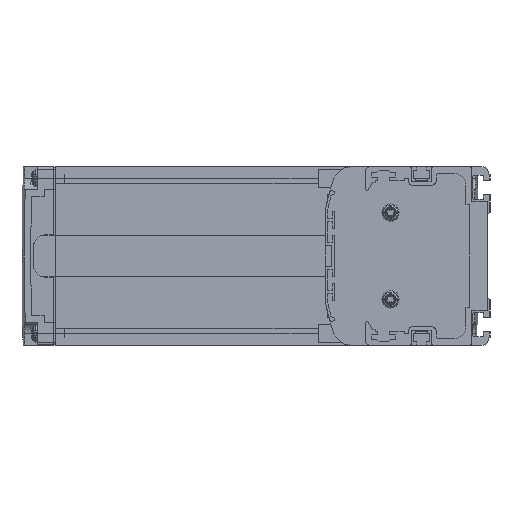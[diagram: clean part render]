
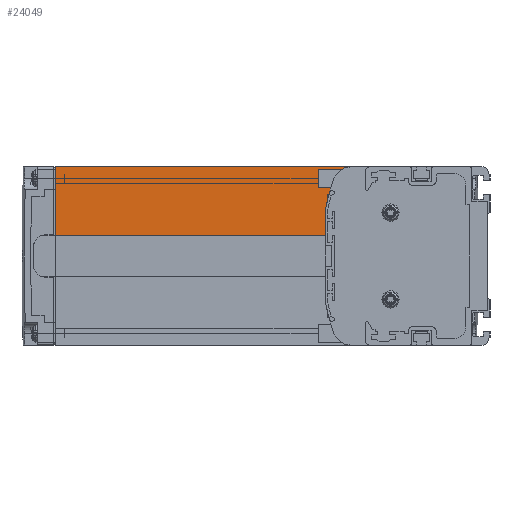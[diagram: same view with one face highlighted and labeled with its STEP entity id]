
A CAD part, left-side view. The second image highlights one B-rep face of the part: STEP entity #24049.
In plain terms, the highlighted planar face has unit normal (-1, 0, 0).
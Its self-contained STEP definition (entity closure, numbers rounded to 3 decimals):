
#1246=DIRECTION('',(0.,-1.,0.));
#1247=VECTOR('',#1246,0.571);
#1248=CARTESIAN_POINT('',(3.,71.,27.));
#1249=LINE('',#1248,#1247);
#1258=DIRECTION('',(0.,0.,1.));
#1259=VECTOR('',#1258,2.224);
#1260=CARTESIAN_POINT('',(3.,71.,24.776));
#1261=LINE('',#1260,#1259);
#1278=DIRECTION('',(0.,0.,-1.));
#1279=VECTOR('',#1278,29.9);
#1280=CARTESIAN_POINT('',(3.,190.,39.));
#1281=LINE('',#1280,#1279);
#5512=DIRECTION('',(0.,-1.,0.));
#5513=VECTOR('',#5512,129.245);
#5514=CARTESIAN_POINT('',(3.,190.,39.));
#5515=LINE('',#5514,#5513);
#6786=DIRECTION('',(0.,0.,-1.));
#6787=VECTOR('',#6786,10.723);
#6788=CARTESIAN_POINT('',(3.,72.,19.823));
#6789=LINE('',#6788,#6787);
#6802=CARTESIAN_POINT('',(3.,70.,19.823));
#6803=DIRECTION('',(1.,0.,0.));
#6804=DIRECTION('',(0.,1.,0.));
#6805=AXIS2_PLACEMENT_3D('',#6802,#6803,#6804);
#6811=CARTESIAN_POINT('',(3.,-6.765,6.));
#6812=DIRECTION('',(1.,0.,0.));
#6813=DIRECTION('',(0.,0.984,0.177));
#6814=AXIS2_PLACEMENT_3D('',#6811,#6812,#6813);
#6816=CARTESIAN_POINT('',(3.,-6.765,6.));
#6817=DIRECTION('',(1.,0.,0.));
#6818=DIRECTION('',(0.,0.965,0.263));
#6819=AXIS2_PLACEMENT_3D('',#6816,#6817,#6818);
#6825=CARTESIAN_POINT('',(3.,60.755,31.));
#6826=DIRECTION('',(-1.,0.,0.));
#6827=DIRECTION('',(0.,0.,1.));
#6828=AXIS2_PLACEMENT_3D('',#6825,#6826,#6827);
#11690=DIRECTION('',(0.,-1.,0.));
#11691=VECTOR('',#11690,118.);
#11692=CARTESIAN_POINT('',(3.,190.,9.1));
#11693=LINE('',#11692,#11691);
#17897=CARTESIAN_POINT('',(3.,190.,39.));
#17898=VERTEX_POINT('',#17897);
#17899=CARTESIAN_POINT('',(3.,190.,9.1));
#17900=VERTEX_POINT('',#17899);
#17929=CARTESIAN_POINT('',(3.,71.,27.));
#17931=VERTEX_POINT('',#17929);
#21991=CARTESIAN_POINT('',(3.,70.429,27.));
#21993=VERTEX_POINT('',#21991);
#22000=CARTESIAN_POINT('',(3.,71.,24.776));
#22002=VERTEX_POINT('',#22000);
#22010=CARTESIAN_POINT('',(3.,72.,9.1));
#22011=VERTEX_POINT('',#22010);
#22020=CARTESIAN_POINT('',(3.,72.,19.823));
#22021=CARTESIAN_POINT('',(3.,71.968,20.177));
#22022=VERTEX_POINT('',#22020);
#22023=VERTEX_POINT('',#22021);
#22024=CARTESIAN_POINT('',(3.,68.257,33.778));
#22025=VERTEX_POINT('',#22024);
#22026=CARTESIAN_POINT('',(3.,60.755,39.));
#22027=VERTEX_POINT('',#22026);
#24024=CARTESIAN_POINT('',(3.,105.,24.05));
#24025=DIRECTION('',(1.,0.,0.));
#24026=DIRECTION('',(0.,0.,1.));
#24027=AXIS2_PLACEMENT_3D('',#24024,#24025,#24026);
#24028=PLANE('',#24027);
#24030=ORIENTED_EDGE('',*,*,#24029,.F.);
#24032=ORIENTED_EDGE('',*,*,#24031,.T.);
#24034=ORIENTED_EDGE('',*,*,#24033,.F.);
#24036=ORIENTED_EDGE('',*,*,#24035,.F.);
#24038=ORIENTED_EDGE('',*,*,#24037,.T.);
#24040=ORIENTED_EDGE('',*,*,#24039,.T.);
#24042=ORIENTED_EDGE('',*,*,#24041,.F.);
#24043=ORIENTED_EDGE('',*,*,#23973,.F.);
#24044=ORIENTED_EDGE('',*,*,#23991,.F.);
#24046=ORIENTED_EDGE('',*,*,#24045,.F.);
#24047=EDGE_LOOP('',(#24030,#24032,#24034,#24036,#24038,#24040,#24042,#24043,
#24044,#24046));
#24048=FACE_OUTER_BOUND('',#24047,.F.);
#24049=ADVANCED_FACE('',(#24048),#24028,.F.);
#6806=CIRCLE('',#6805,2.);
#6815=CIRCLE('',#6814,80.);
#6820=CIRCLE('',#6819,80.);
#6829=CIRCLE('',#6828,8.);
#23973=EDGE_CURVE('',#17931,#21993,#1249,.T.);
#23991=EDGE_CURVE('',#22002,#17931,#1261,.T.);
#24029=EDGE_CURVE('',#22022,#22023,#6806,.T.);
#24031=EDGE_CURVE('',#22022,#22011,#6789,.T.);
#24033=EDGE_CURVE('',#17900,#22011,#11693,.T.);
#24035=EDGE_CURVE('',#17898,#17900,#1281,.T.);
#24037=EDGE_CURVE('',#17898,#22027,#5515,.T.);
#24039=EDGE_CURVE('',#22027,#22025,#6829,.T.);
#24041=EDGE_CURVE('',#21993,#22025,#6820,.T.);
#24045=EDGE_CURVE('',#22023,#22002,#6815,.T.);
